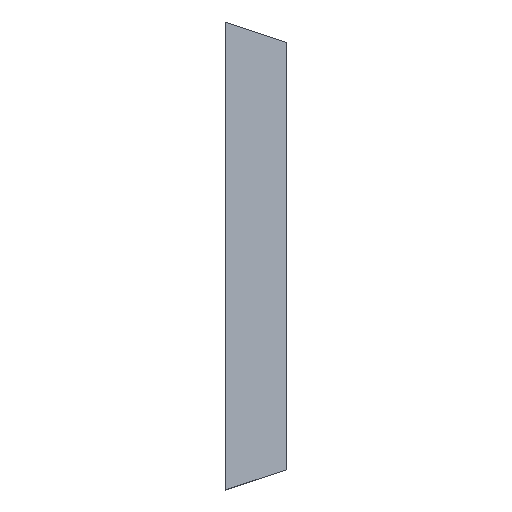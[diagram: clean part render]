
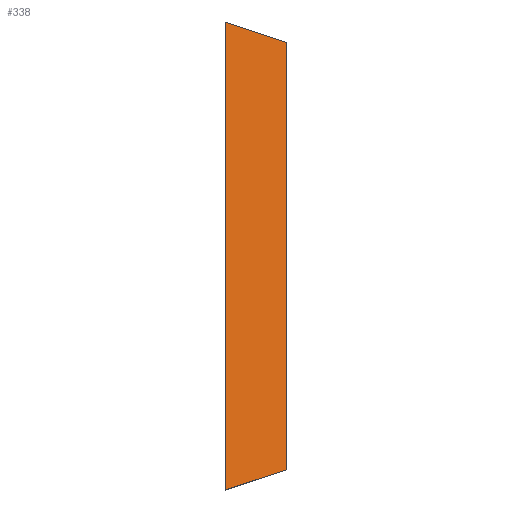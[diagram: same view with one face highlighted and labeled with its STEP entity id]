
A CAD part, top view. The second image highlights one B-rep face of the part: STEP entity #338.
In plain terms, the highlighted planar face has unit normal (0.316, 0, 0.949).
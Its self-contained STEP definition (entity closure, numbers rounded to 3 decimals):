
#24 = VERTEX_POINT('',#25);
#25 = CARTESIAN_POINT('',(0.,-230.,206.));
#32 = PLANE('',#33);
#33 = AXIS2_PLACEMENT_3D('',#34,#35,#36);
#34 = CARTESIAN_POINT('',(0.,-230.,200.));
#35 = DIRECTION('',(-1.,0.,0.));
#36 = DIRECTION('',(0.,1.,0.));
#44 = PLANE('',#45);
#45 = AXIS2_PLACEMENT_3D('',#46,#47,#48);
#46 = CARTESIAN_POINT('',(60.,-210.,180.));
#47 = DIRECTION('',(0.316,-0.949,0.));
#48 = DIRECTION('',(-0.905,-0.302,0.302));
#56 = EDGE_CURVE('',#24,#57,#59,.T.);
#57 = VERTEX_POINT('',#58);
#58 = CARTESIAN_POINT('',(0.,230.,206.));
#59 = SURFACE_CURVE('',#60,(#64,#71),.PCURVE_S1.);
#60 = LINE('',#61,#62);
#61 = CARTESIAN_POINT('',(0.,-230.,206.));
#62 = VECTOR('',#63,1.);
#63 = DIRECTION('',(0.,1.,0.));
#64 = PCURVE('',#32,#65);
#65 = DEFINITIONAL_REPRESENTATION('',(#66),#70);
#66 = LINE('',#67,#68);
#67 = CARTESIAN_POINT('',(0.,-6.));
#68 = VECTOR('',#69,1.);
#69 = DIRECTION('',(1.,0.));
#70 = ( GEOMETRIC_REPRESENTATION_CONTEXT(2) 
PARAMETRIC_REPRESENTATION_CONTEXT() REPRESENTATION_CONTEXT('2D SPACE',''
  ) );
#71 = PCURVE('',#72,#77);
#72 = PLANE('',#73);
#73 = AXIS2_PLACEMENT_3D('',#74,#75,#76);
#74 = CARTESIAN_POINT('',(28.815,0.,
    196.395));
#75 = DIRECTION('',(-0.316,-0.,-0.949));
#76 = DIRECTION('',(-0.949,0.,0.316));
#77 = DEFINITIONAL_REPRESENTATION('',(#78),#82);
#78 = LINE('',#79,#80);
#79 = CARTESIAN_POINT('',(30.374,-230.));
#80 = VECTOR('',#81,1.);
#81 = DIRECTION('',(0.,1.));
#82 = ( GEOMETRIC_REPRESENTATION_CONTEXT(2) 
PARAMETRIC_REPRESENTATION_CONTEXT() REPRESENTATION_CONTEXT('2D SPACE',''
  ) );
#100 = PLANE('',#101);
#101 = AXIS2_PLACEMENT_3D('',#102,#103,#104);
#102 = CARTESIAN_POINT('',(0.,230.,200.));
#103 = DIRECTION('',(0.316,0.949,-0.));
#104 = DIRECTION('',(0.905,-0.302,-0.302));
#142 = EDGE_CURVE('',#57,#143,#145,.T.);
#143 = VERTEX_POINT('',#144);
#144 = CARTESIAN_POINT('',(60.,210.,186.));
#145 = SURFACE_CURVE('',#146,(#150,#157),.PCURVE_S1.);
#146 = LINE('',#147,#148);
#147 = CARTESIAN_POINT('',(0.,230.,206.));
#148 = VECTOR('',#149,1.);
#149 = DIRECTION('',(0.905,-0.302,-0.302));
#150 = PCURVE('',#100,#151);
#151 = DEFINITIONAL_REPRESENTATION('',(#152),#156);
#152 = LINE('',#153,#154);
#153 = CARTESIAN_POINT('',(-1.809,-5.721));
#154 = VECTOR('',#155,1.);
#155 = DIRECTION('',(1.,0.));
#156 = ( GEOMETRIC_REPRESENTATION_CONTEXT(2) 
PARAMETRIC_REPRESENTATION_CONTEXT() REPRESENTATION_CONTEXT('2D SPACE',''
  ) );
#157 = PCURVE('',#72,#158);
#158 = DEFINITIONAL_REPRESENTATION('',(#159),#163);
#159 = LINE('',#160,#161);
#160 = CARTESIAN_POINT('',(30.374,230.));
#161 = VECTOR('',#162,1.);
#162 = DIRECTION('',(-0.953,-0.302));
#163 = ( GEOMETRIC_REPRESENTATION_CONTEXT(2) 
PARAMETRIC_REPRESENTATION_CONTEXT() REPRESENTATION_CONTEXT('2D SPACE',''
  ) );
#181 = PLANE('',#182);
#182 = AXIS2_PLACEMENT_3D('',#183,#184,#185);
#183 = CARTESIAN_POINT('',(60.,210.,180.));
#184 = DIRECTION('',(1.,0.,-0.));
#185 = DIRECTION('',(0.,-1.,0.));
#218 = EDGE_CURVE('',#143,#219,#221,.T.);
#219 = VERTEX_POINT('',#220);
#220 = CARTESIAN_POINT('',(60.,-210.,186.));
#221 = SURFACE_CURVE('',#222,(#226,#233),.PCURVE_S1.);
#222 = LINE('',#223,#224);
#223 = CARTESIAN_POINT('',(60.,210.,186.));
#224 = VECTOR('',#225,1.);
#225 = DIRECTION('',(0.,-1.,0.));
#226 = PCURVE('',#181,#227);
#227 = DEFINITIONAL_REPRESENTATION('',(#228),#232);
#228 = LINE('',#229,#230);
#229 = CARTESIAN_POINT('',(0.,-6.));
#230 = VECTOR('',#231,1.);
#231 = DIRECTION('',(1.,0.));
#232 = ( GEOMETRIC_REPRESENTATION_CONTEXT(2) 
PARAMETRIC_REPRESENTATION_CONTEXT() REPRESENTATION_CONTEXT('2D SPACE',''
  ) );
#233 = PCURVE('',#72,#234);
#234 = DEFINITIONAL_REPRESENTATION('',(#235),#239);
#235 = LINE('',#236,#237);
#236 = CARTESIAN_POINT('',(-32.872,210.));
#237 = VECTOR('',#238,1.);
#238 = DIRECTION('',(0.,-1.));
#239 = ( GEOMETRIC_REPRESENTATION_CONTEXT(2) 
PARAMETRIC_REPRESENTATION_CONTEXT() REPRESENTATION_CONTEXT('2D SPACE',''
  ) );
#289 = EDGE_CURVE('',#219,#24,#290,.T.);
#290 = SURFACE_CURVE('',#291,(#295,#302),.PCURVE_S1.);
#291 = LINE('',#292,#293);
#292 = CARTESIAN_POINT('',(60.,-210.,186.));
#293 = VECTOR('',#294,1.);
#294 = DIRECTION('',(-0.905,-0.302,0.302));
#295 = PCURVE('',#44,#296);
#296 = DEFINITIONAL_REPRESENTATION('',(#297),#301);
#297 = LINE('',#298,#299);
#298 = CARTESIAN_POINT('',(1.809,-5.721));
#299 = VECTOR('',#300,1.);
#300 = DIRECTION('',(1.,0.));
#301 = ( GEOMETRIC_REPRESENTATION_CONTEXT(2) 
PARAMETRIC_REPRESENTATION_CONTEXT() REPRESENTATION_CONTEXT('2D SPACE',''
  ) );
#302 = PCURVE('',#72,#303);
#303 = DEFINITIONAL_REPRESENTATION('',(#304),#308);
#304 = LINE('',#305,#306);
#305 = CARTESIAN_POINT('',(-32.872,-210.));
#306 = VECTOR('',#307,1.);
#307 = DIRECTION('',(0.953,-0.302));
#308 = ( GEOMETRIC_REPRESENTATION_CONTEXT(2) 
PARAMETRIC_REPRESENTATION_CONTEXT() REPRESENTATION_CONTEXT('2D SPACE',''
  ) );
#338 = ADVANCED_FACE('',(#339),#72,.F.);
#339 = FACE_BOUND('',#340,.F.);
#340 = EDGE_LOOP('',(#341,#342,#343,#344));
#341 = ORIENTED_EDGE('',*,*,#56,.T.);
#342 = ORIENTED_EDGE('',*,*,#142,.T.);
#343 = ORIENTED_EDGE('',*,*,#218,.T.);
#344 = ORIENTED_EDGE('',*,*,#289,.T.);
